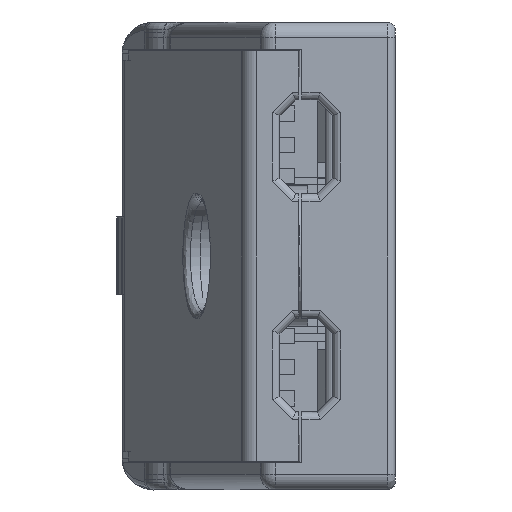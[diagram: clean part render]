
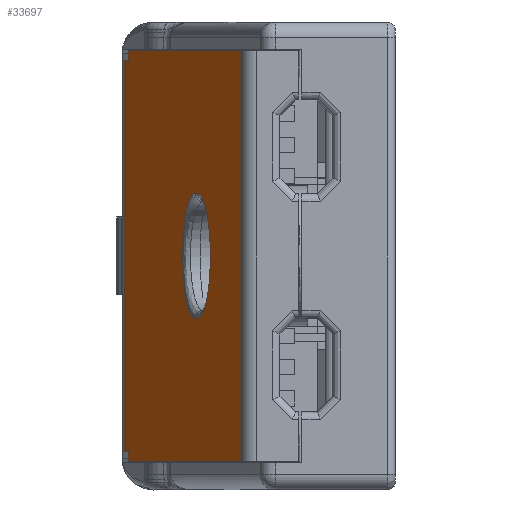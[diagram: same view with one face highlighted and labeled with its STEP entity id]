
A CAD part, left-side view. The second image highlights one B-rep face of the part: STEP entity #33697.
In plain terms, the highlighted planar face has unit normal (-0.196, 0.981, 0) as drawn and (0.201, 0.98, 0) by its records, which use the part's own axes.
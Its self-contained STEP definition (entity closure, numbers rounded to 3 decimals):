
#30888=DIRECTION('',(-0.98,0.201,0.));
#30889=VECTOR('',#30888,1.198);
#30890=CARTESIAN_POINT('',(-17.285,11.097,-12.55));
#30891=LINE('',#30890,#30889);
#30914=DIRECTION('',(0.,0.,1.));
#30915=VECTOR('',#30914,25.1);
#30916=CARTESIAN_POINT('',(-18.459,11.338,-12.55));
#30917=LINE('',#30916,#30915);
#31061=DIRECTION('',(0.98,-0.201,0.));
#31062=VECTOR('',#31061,36.991);
#31063=CARTESIAN_POINT('',(-17.285,11.097,-13.15));
#31064=LINE('',#31063,#31062);
#31074=DIRECTION('',(-0.98,0.201,0.));
#31075=VECTOR('',#31074,0.817);
#31076=CARTESIAN_POINT('',(4.95,6.536,4.));
#31077=LINE('',#31076,#31075);
#31078=CARTESIAN_POINT('',(4.95,6.536,
-4.));
#31079=CARTESIAN_POINT('',(5.2,6.485,
-4.));
#31080=CARTESIAN_POINT('',(5.692,6.384,
-3.954));
#31081=CARTESIAN_POINT('',(6.419,6.235,
-3.746));
#31082=CARTESIAN_POINT('',(7.086,6.098,
-3.409));
#31083=CARTESIAN_POINT('',(7.679,5.976,
-2.956));
#31084=CARTESIAN_POINT('',(8.175,5.874,
-2.405));
#31085=CARTESIAN_POINT('',(8.56,5.795,
-1.775));
#31086=CARTESIAN_POINT('',(8.823,5.741,
-1.088));
#31087=CARTESIAN_POINT('',(8.956,5.714,
-0.367));
#31088=CARTESIAN_POINT('',(8.956,5.714,
0.366));
#31089=CARTESIAN_POINT('',(8.823,5.741,1.088));
#31090=CARTESIAN_POINT('',(8.56,5.795,1.775));
#31091=CARTESIAN_POINT('',(8.175,5.874,2.405));
#31092=CARTESIAN_POINT('',(7.679,5.976,2.956));
#31093=CARTESIAN_POINT('',(7.086,6.098,3.409));
#31094=CARTESIAN_POINT('',(6.419,6.235,3.746));
#31095=CARTESIAN_POINT('',(5.692,6.384,3.954));
#31096=CARTESIAN_POINT('',(5.201,6.485,4.));
#31097=CARTESIAN_POINT('',(4.95,6.536,4.));
#31099=DIRECTION('',(0.98,-0.201,0.));
#31100=VECTOR('',#31099,0.817);
#31101=CARTESIAN_POINT('',(4.15,6.7,
-4.));
#31102=LINE('',#31101,#31100);
#31103=CARTESIAN_POINT('',(4.15,6.7,4.));
#31104=CARTESIAN_POINT('',(3.9,6.751,4.));
#31105=CARTESIAN_POINT('',(3.409,6.852,3.954));
#31106=CARTESIAN_POINT('',(2.682,7.001,3.746));
#31107=CARTESIAN_POINT('',(2.015,7.138,3.409));
#31108=CARTESIAN_POINT('',(1.422,7.26,2.956));
#31109=CARTESIAN_POINT('',(0.926,7.361,
2.405));
#31110=CARTESIAN_POINT('',(0.541,7.44,
1.775));
#31111=CARTESIAN_POINT('',(0.278,7.494,
1.088));
#31112=CARTESIAN_POINT('',(0.145,7.522,
0.367));
#31113=CARTESIAN_POINT('',(0.145,7.522,
-0.366));
#31114=CARTESIAN_POINT('',(0.278,7.494,
-1.088));
#31115=CARTESIAN_POINT('',(0.541,7.44,
-1.775));
#31116=CARTESIAN_POINT('',(0.926,7.361,
-2.405));
#31117=CARTESIAN_POINT('',(1.422,7.26,
-2.956));
#31118=CARTESIAN_POINT('',(2.015,7.138,
-3.409));
#31119=CARTESIAN_POINT('',(2.682,7.001,
-3.746));
#31120=CARTESIAN_POINT('',(3.409,6.852,
-3.954));
#31121=CARTESIAN_POINT('',(3.9,6.751,
-4.));
#31122=CARTESIAN_POINT('',(4.15,6.7,
-4.));
#31124=DIRECTION('',(0.,0.,1.));
#31125=VECTOR('',#31124,0.6);
#31126=CARTESIAN_POINT('',(-17.285,11.097,-13.15));
#31127=LINE('',#31126,#31125);
#31128=DIRECTION('',(0.,0.,1.));
#31129=VECTOR('',#31128,26.3);
#31130=CARTESIAN_POINT('',(18.951,3.664,-13.15));
#31131=LINE('',#31130,#31129);
#31132=DIRECTION('',(0.,0.,1.));
#31133=VECTOR('',#31132,0.6);
#31134=CARTESIAN_POINT('',(-17.285,11.097,12.55));
#31135=LINE('',#31134,#31133);
#31427=DIRECTION('',(0.98,-0.201,0.));
#31428=VECTOR('',#31427,36.991);
#31429=CARTESIAN_POINT('',(-17.285,11.097,13.15));
#31430=LINE('',#31429,#31428);
#31500=DIRECTION('',(0.98,-0.201,0.));
#31501=VECTOR('',#31500,1.198);
#31502=CARTESIAN_POINT('',(-18.459,11.338,12.55));
#31503=LINE('',#31502,#31501);
#32742=CARTESIAN_POINT('',(4.95,6.536,4.));
#32743=CARTESIAN_POINT('',(4.15,6.7,4.));
#32744=VERTEX_POINT('',#32742);
#32745=VERTEX_POINT('',#32743);
#32750=VERTEX_POINT('',#31122);
#32752=CARTESIAN_POINT('',(4.95,6.536,
-4.));
#32753=VERTEX_POINT('',#32752);
#32757=CARTESIAN_POINT('',(18.951,3.664,13.15));
#32759=VERTEX_POINT('',#32757);
#32760=CARTESIAN_POINT('',(18.951,3.664,-13.15));
#32761=VERTEX_POINT('',#32760);
#33044=CARTESIAN_POINT('',(-18.459,11.338,-12.55));
#33045=CARTESIAN_POINT('',(-18.459,11.338,12.55));
#33046=VERTEX_POINT('',#33044);
#33047=VERTEX_POINT('',#33045);
#33052=CARTESIAN_POINT('',(-17.285,11.097,-13.15));
#33053=VERTEX_POINT('',#33052);
#33054=CARTESIAN_POINT('',(-17.285,11.097,-12.55));
#33055=VERTEX_POINT('',#33054);
#33064=CARTESIAN_POINT('',(-17.285,11.097,13.15));
#33066=VERTEX_POINT('',#33064);
#33070=CARTESIAN_POINT('',(-17.285,11.097,12.55));
#33071=VERTEX_POINT('',#33070);
#33668=CARTESIAN_POINT('',(-19.25,11.5,13.15));
#33669=DIRECTION('',(-0.201,-0.98,0.));
#33670=DIRECTION('',(0.98,-0.201,0.));
#33671=AXIS2_PLACEMENT_3D('',#33668,#33669,#33670);
#33672=PLANE('',#33671);
#33673=ORIENTED_EDGE('',*,*,#33650,.F.);
#33674=ORIENTED_EDGE('',*,*,#33637,.T.);
#33676=ORIENTED_EDGE('',*,*,#33675,.T.);
#33678=ORIENTED_EDGE('',*,*,#33677,.F.);
#33680=ORIENTED_EDGE('',*,*,#33679,.F.);
#33682=ORIENTED_EDGE('',*,*,#33681,.F.);
#33683=ORIENTED_EDGE('',*,*,#33458,.F.);
#33684=ORIENTED_EDGE('',*,*,#33445,.F.);
#33685=EDGE_LOOP('',(#33673,#33674,#33676,#33678,#33680,#33682,#33683,#33684));
#33686=FACE_OUTER_BOUND('',#33685,.F.);
#33688=ORIENTED_EDGE('',*,*,#33687,.F.);
#33690=ORIENTED_EDGE('',*,*,#33689,.F.);
#33692=ORIENTED_EDGE('',*,*,#33691,.F.);
#33694=ORIENTED_EDGE('',*,*,#33693,.F.);
#33695=EDGE_LOOP('',(#33688,#33690,#33692,#33694));
#33696=FACE_BOUND('',#33695,.F.);
#31098=B_SPLINE_CURVE_WITH_KNOTS('',3,(#31078,#31079,#31080,#31081,#31082,
#31083,#31084,#31085,#31086,#31087,#31088,#31089,#31090,#31091,#31092,#31093,
#31094,#31095,#31096,#31097),.UNSPECIFIED.,.F.,.F.,(4,1,1,1,1,1,1,1,1,1,1,1,1,1,
1,1,1,4),(0.,0.059,0.118,0.176,
0.235,0.294,0.353,0.412,
0.471,0.529,0.588,0.647,
0.706,0.765,0.824,0.882,
0.941,1.),.UNSPECIFIED.);
#31123=B_SPLINE_CURVE_WITH_KNOTS('',3,(#31103,#31104,#31105,#31106,#31107,
#31108,#31109,#31110,#31111,#31112,#31113,#31114,#31115,#31116,#31117,#31118,
#31119,#31120,#31121,#31122),.UNSPECIFIED.,.F.,.F.,(4,1,1,1,1,1,1,1,1,1,1,1,1,1,
1,1,1,4),(0.,0.059,0.118,0.176,
0.235,0.294,0.353,0.412,
0.471,0.529,0.588,0.647,
0.706,0.765,0.824,0.882,
0.941,1.),.UNSPECIFIED.);
#33445=EDGE_CURVE('',#33055,#33046,#30891,.T.);
#33458=EDGE_CURVE('',#33046,#33047,#30917,.T.);
#33637=EDGE_CURVE('',#33053,#32761,#31064,.T.);
#33650=EDGE_CURVE('',#33053,#33055,#31127,.T.);
#33675=EDGE_CURVE('',#32761,#32759,#31131,.T.);
#33677=EDGE_CURVE('',#33066,#32759,#31430,.T.);
#33679=EDGE_CURVE('',#33071,#33066,#31135,.T.);
#33681=EDGE_CURVE('',#33047,#33071,#31503,.T.);
#33687=EDGE_CURVE('',#32744,#32745,#31077,.T.);
#33689=EDGE_CURVE('',#32753,#32744,#31098,.T.);
#33691=EDGE_CURVE('',#32750,#32753,#31102,.T.);
#33693=EDGE_CURVE('',#32745,#32750,#31123,.T.);
#33697=ADVANCED_FACE('',(#33686,#33696),#33672,.F.);
